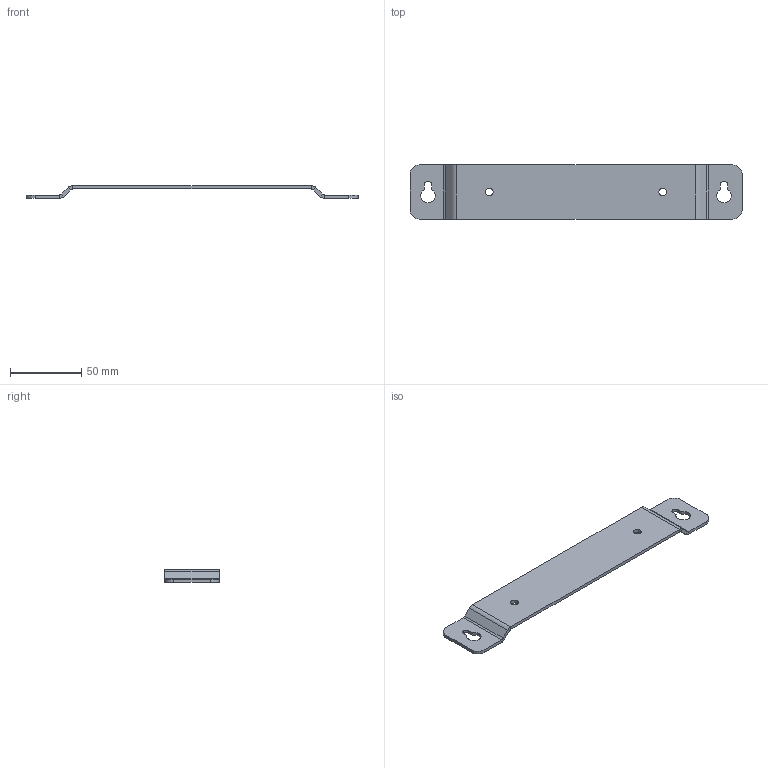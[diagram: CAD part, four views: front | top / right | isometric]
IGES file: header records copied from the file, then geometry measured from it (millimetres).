
Start section:  PTC IGES file: cd_usb_m-series_panel_mount.igs
Global section: file name: cd_usb_m-series_panel_mount.igs; native system: Pro/ENGINEER by Parametric Technology Corporation; preprocessor: 2006080; author: scarrasc; organization: Unknown; date: 080603.160204; units: inch
Bounding box: 233.39 x 38.1 x 8.8 mm (x, y, z)
Surface area: 19071.7 mm2 (no closed solid volume)
Topology: 0 solids, 0 shells, 54 faces, 248 edges, 248 vertices
Faces by surface type: bspline 34, revolution 20
